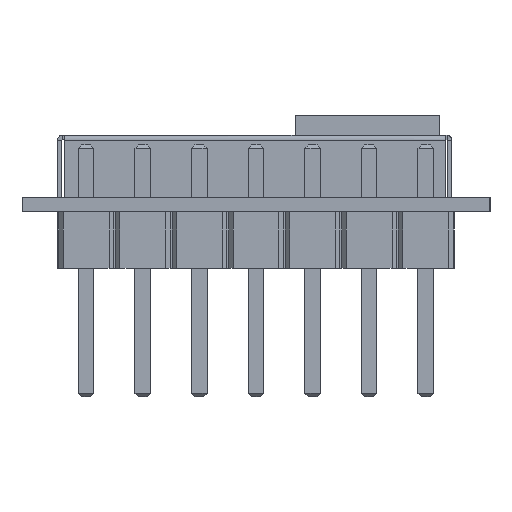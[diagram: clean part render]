
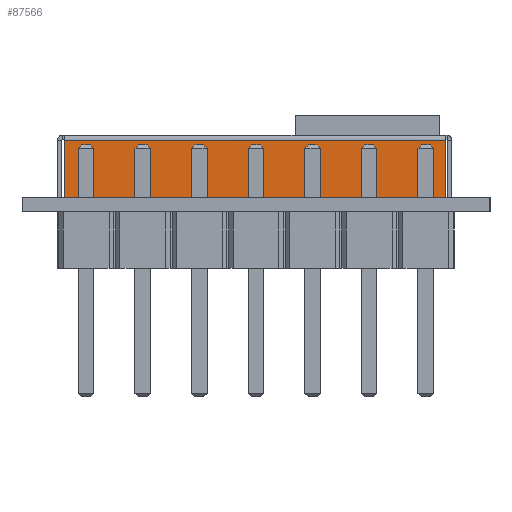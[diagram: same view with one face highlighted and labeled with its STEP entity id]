
A CAD part, left-side view. The second image highlights one B-rep face of the part: STEP entity #87566.
In plain terms, the highlighted planar face has unit normal (-1, 0, 0).
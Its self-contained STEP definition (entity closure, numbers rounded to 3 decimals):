
#83255 = CYLINDRICAL_SURFACE('',#83256,0.22);
#83256 = AXIS2_PLACEMENT_3D('',#83257,#83258,#83259);
#83257 = CARTESIAN_POINT('',(-12.88,8.55,-0.22));
#83258 = DIRECTION('',(0.,1.,0.));
#83259 = DIRECTION('',(-1.,0.,0.));
#87075 = VERTEX_POINT('',#87076);
#87076 = CARTESIAN_POINT('',(-13.1,-8.55,-0.22));
#87090 = PLANE('',#87091);
#87091 = AXIS2_PLACEMENT_3D('',#87092,#87093,#87094);
#87092 = CARTESIAN_POINT('',(-13.1,-8.55,-0.2));
#87093 = DIRECTION('',(0.,1.,0.));
#87094 = DIRECTION('',(0.,0.,1.));
#87218 = VERTEX_POINT('',#87219);
#87219 = CARTESIAN_POINT('',(-13.1,8.55,-0.22));
#87300 = PLANE('',#87301);
#87301 = AXIS2_PLACEMENT_3D('',#87302,#87303,#87304);
#87302 = CARTESIAN_POINT('',(-13.1,8.55,-2.8));
#87303 = DIRECTION('',(0.,-1.,0.));
#87304 = DIRECTION('',(0.,0.,-1.));
#87317 = EDGE_CURVE('',#87218,#87075,#87318,.T.);
#87318 = SURFACE_CURVE('',#87319,(#87323,#87352),.PCURVE_S1.);
#87319 = LINE('',#87320,#87321);
#87320 = CARTESIAN_POINT('',(-13.1,0.,-0.22));
#87321 = VECTOR('',#87322,1.);
#87322 = DIRECTION('',(0.,-1.,0.));
#87323 = PCURVE('',#83255,#87324);
#87324 = DEFINITIONAL_REPRESENTATION('',(#87325),#87351);
#87325 = B_SPLINE_CURVE_WITH_KNOTS('',3,(#87326,#87327,#87328,#87329,
    #87330,#87331,#87332,#87333,#87334,#87335,#87336,#87337,#87338,
    #87339,#87340,#87341,#87342,#87343,#87344,#87345,#87346,#87347,
    #87348,#87349,#87350),.UNSPECIFIED.,.F.,.F.,(4,1,1,1,1,1,1,1,1,1,1,1
    ,1,1,1,1,1,1,1,1,1,1,4),(-8.55,-7.773,-6.995,
    -6.218,-5.441,-4.664,-3.886,
    -3.109,-2.332,-1.555,-0.777,
    0.,0.777,1.555,2.332,
    3.109,3.886,4.664,5.441,
    6.218,6.995,7.773,8.55),.UNSPECIFIED.);
#87326 = CARTESIAN_POINT('',(0.,0.));
#87327 = CARTESIAN_POINT('',(0.,-0.259));
#87328 = CARTESIAN_POINT('',(0.,-0.777));
#87329 = CARTESIAN_POINT('',(0.,-1.555));
#87330 = CARTESIAN_POINT('',(0.,-2.332));
#87331 = CARTESIAN_POINT('',(0.,-3.109));
#87332 = CARTESIAN_POINT('',(0.,-3.886));
#87333 = CARTESIAN_POINT('',(0.,-4.664));
#87334 = CARTESIAN_POINT('',(0.,-5.441));
#87335 = CARTESIAN_POINT('',(0.,-6.218));
#87336 = CARTESIAN_POINT('',(0.,-6.995));
#87337 = CARTESIAN_POINT('',(0.,-7.773));
#87338 = CARTESIAN_POINT('',(0.,-8.55));
#87339 = CARTESIAN_POINT('',(0.,-9.327));
#87340 = CARTESIAN_POINT('',(0.,-10.105));
#87341 = CARTESIAN_POINT('',(0.,-10.882));
#87342 = CARTESIAN_POINT('',(0.,-11.659));
#87343 = CARTESIAN_POINT('',(0.,-12.436));
#87344 = CARTESIAN_POINT('',(0.,-13.214));
#87345 = CARTESIAN_POINT('',(0.,-13.991));
#87346 = CARTESIAN_POINT('',(0.,-14.768));
#87347 = CARTESIAN_POINT('',(0.,-15.545));
#87348 = CARTESIAN_POINT('',(0.,-16.323));
#87349 = CARTESIAN_POINT('',(0.,-16.841));
#87350 = CARTESIAN_POINT('',(0.,-17.1));
#87351 = ( GEOMETRIC_REPRESENTATION_CONTEXT(2) 
PARAMETRIC_REPRESENTATION_CONTEXT() REPRESENTATION_CONTEXT('2D SPACE',''
  ) );
#87352 = PCURVE('',#87353,#87358);
#87353 = PLANE('',#87354);
#87354 = AXIS2_PLACEMENT_3D('',#87355,#87356,#87357);
#87355 = CARTESIAN_POINT('',(-13.1,0.,0.));
#87356 = DIRECTION('',(1.,0.,0.));
#87357 = DIRECTION('',(0.,0.,-1.));
#87358 = DEFINITIONAL_REPRESENTATION('',(#87359),#87363);
#87359 = LINE('',#87360,#87361);
#87360 = CARTESIAN_POINT('',(0.22,0.));
#87361 = VECTOR('',#87362,1.);
#87362 = DIRECTION('',(0.,-1.));
#87363 = ( GEOMETRIC_REPRESENTATION_CONTEXT(2) 
PARAMETRIC_REPRESENTATION_CONTEXT() REPRESENTATION_CONTEXT('2D SPACE',''
  ) );
#87448 = VERTEX_POINT('',#87449);
#87449 = CARTESIAN_POINT('',(-13.1,8.55,-2.8));
#87463 = PLANE('',#87464);
#87464 = AXIS2_PLACEMENT_3D('',#87465,#87466,#87467);
#87465 = CARTESIAN_POINT('',(-13.1,-8.55,-2.8));
#87466 = DIRECTION('',(0.,0.,1.));
#87467 = DIRECTION('',(1.,0.,0.));
#87475 = EDGE_CURVE('',#87218,#87448,#87476,.T.);
#87476 = SURFACE_CURVE('',#87477,(#87481,#87488),.PCURVE_S1.);
#87477 = LINE('',#87478,#87479);
#87478 = CARTESIAN_POINT('',(-13.1,8.55,-2.8));
#87479 = VECTOR('',#87480,1.);
#87480 = DIRECTION('',(0.,0.,-1.));
#87481 = PCURVE('',#87300,#87482);
#87482 = DEFINITIONAL_REPRESENTATION('',(#87483),#87487);
#87483 = LINE('',#87484,#87485);
#87484 = CARTESIAN_POINT('',(0.,0.));
#87485 = VECTOR('',#87486,1.);
#87486 = DIRECTION('',(1.,0.));
#87487 = ( GEOMETRIC_REPRESENTATION_CONTEXT(2) 
PARAMETRIC_REPRESENTATION_CONTEXT() REPRESENTATION_CONTEXT('2D SPACE',''
  ) );
#87488 = PCURVE('',#87353,#87489);
#87489 = DEFINITIONAL_REPRESENTATION('',(#87490),#87494);
#87490 = LINE('',#87491,#87492);
#87491 = CARTESIAN_POINT('',(2.8,8.55));
#87492 = VECTOR('',#87493,1.);
#87493 = DIRECTION('',(1.,0.));
#87494 = ( GEOMETRIC_REPRESENTATION_CONTEXT(2) 
PARAMETRIC_REPRESENTATION_CONTEXT() REPRESENTATION_CONTEXT('2D SPACE',''
  ) );
#87500 = EDGE_CURVE('',#87501,#87075,#87503,.T.);
#87501 = VERTEX_POINT('',#87502);
#87502 = CARTESIAN_POINT('',(-13.1,-8.55,-2.8));
#87503 = SURFACE_CURVE('',#87504,(#87508,#87515),.PCURVE_S1.);
#87504 = LINE('',#87505,#87506);
#87505 = CARTESIAN_POINT('',(-13.1,-8.55,-0.2));
#87506 = VECTOR('',#87507,1.);
#87507 = DIRECTION('',(0.,0.,1.));
#87508 = PCURVE('',#87090,#87509);
#87509 = DEFINITIONAL_REPRESENTATION('',(#87510),#87514);
#87510 = LINE('',#87511,#87512);
#87511 = CARTESIAN_POINT('',(0.,0.));
#87512 = VECTOR('',#87513,1.);
#87513 = DIRECTION('',(1.,0.));
#87514 = ( GEOMETRIC_REPRESENTATION_CONTEXT(2) 
PARAMETRIC_REPRESENTATION_CONTEXT() REPRESENTATION_CONTEXT('2D SPACE',''
  ) );
#87515 = PCURVE('',#87353,#87516);
#87516 = DEFINITIONAL_REPRESENTATION('',(#87517),#87521);
#87517 = LINE('',#87518,#87519);
#87518 = CARTESIAN_POINT('',(0.2,-8.55));
#87519 = VECTOR('',#87520,1.);
#87520 = DIRECTION('',(-1.,0.));
#87521 = ( GEOMETRIC_REPRESENTATION_CONTEXT(2) 
PARAMETRIC_REPRESENTATION_CONTEXT() REPRESENTATION_CONTEXT('2D SPACE',''
  ) );
#87566 = ADVANCED_FACE('',(#87567),#87353,.F.);
#87567 = FACE_BOUND('',#87568,.T.);
#87568 = EDGE_LOOP('',(#87569,#87570,#87571,#87592));
#87569 = ORIENTED_EDGE('',*,*,#87317,.F.);
#87570 = ORIENTED_EDGE('',*,*,#87475,.T.);
#87571 = ORIENTED_EDGE('',*,*,#87572,.T.);
#87572 = EDGE_CURVE('',#87448,#87501,#87573,.T.);
#87573 = SURFACE_CURVE('',#87574,(#87578,#87585),.PCURVE_S1.);
#87574 = LINE('',#87575,#87576);
#87575 = CARTESIAN_POINT('',(-13.1,-8.55,-2.8));
#87576 = VECTOR('',#87577,1.);
#87577 = DIRECTION('',(0.,-1.,0.));
#87578 = PCURVE('',#87353,#87579);
#87579 = DEFINITIONAL_REPRESENTATION('',(#87580),#87584);
#87580 = LINE('',#87581,#87582);
#87581 = CARTESIAN_POINT('',(2.8,-8.55));
#87582 = VECTOR('',#87583,1.);
#87583 = DIRECTION('',(0.,-1.));
#87584 = ( GEOMETRIC_REPRESENTATION_CONTEXT(2) 
PARAMETRIC_REPRESENTATION_CONTEXT() REPRESENTATION_CONTEXT('2D SPACE',''
  ) );
#87585 = PCURVE('',#87463,#87586);
#87586 = DEFINITIONAL_REPRESENTATION('',(#87587),#87591);
#87587 = LINE('',#87588,#87589);
#87588 = CARTESIAN_POINT('',(0.,0.));
#87589 = VECTOR('',#87590,1.);
#87590 = DIRECTION('',(0.,-1.));
#87591 = ( GEOMETRIC_REPRESENTATION_CONTEXT(2) 
PARAMETRIC_REPRESENTATION_CONTEXT() REPRESENTATION_CONTEXT('2D SPACE',''
  ) );
#87592 = ORIENTED_EDGE('',*,*,#87500,.T.);
